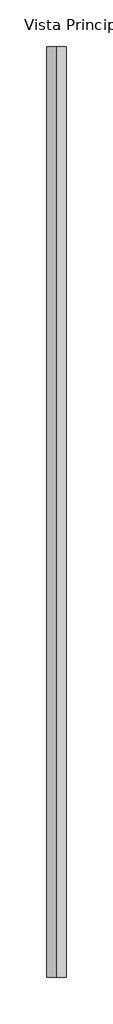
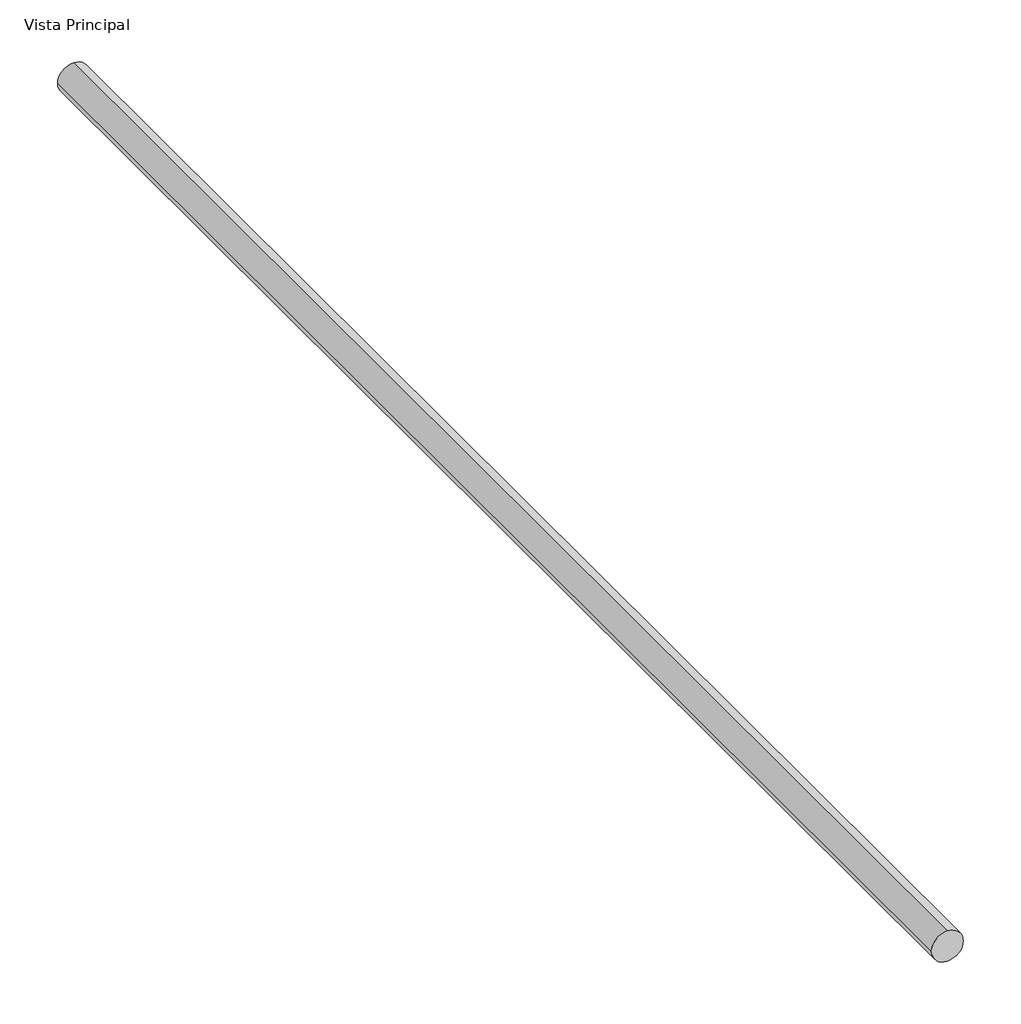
# One storey, incomplete: 1 pipe segment.
"""IFC4 building model written with IfcOpenShell, lengths in millimetres."""

from ifc_helpers import new_model, si_unit, point, frame, frame_2d, origin, place, context, project, spatial, circle_curve, trimmed, segment, composite_curve, outline, extrude, element, save

model = new_model("IFC4")

# Units and contexts
model_context = context("Model", 3, world=origin())
ifc_project = project(units=[si_unit("LENGTHUNIT", "METRE", prefix="MILLI")], contexts=[model_context])

# Site, building, storey
site = spatial("IfcSite", under=ifc_project)
building = spatial("IfcBuilding", under=site)
storey = spatial("IfcBuildingStorey", under=building, Name="Vista Principal", Elevation=0.0)

# Pipe segment
placement = place(None, origin())
element("IfcPipeSegment", 1, ObjectType="Amanco Wavin Ramal Predial-DE 20 a 32 mm", at=placement, inside=storey, context=model_context, shape_type="SweptSolid", body=[
    extrude(outline(composite_curve([segment(trimmed(circle_curve(frame_2d((0.0, 205.9952212)), 16.0), [point((0.0, 189.9952212))], [point((-16.0, 205.9952212))], False, "CARTESIAN"), True, "CONTINUOUS"), segment(trimmed(circle_curve(frame_2d((0.0, 205.9952212)), 16.0), [point((-16.0, 205.9952212))], [point((0.0, 221.9952212))], False, "CARTESIAN"), True, "CONTINUOUS"), segment(trimmed(circle_curve(frame_2d((0.0, 205.9952212)), 16.0), [point((0.0, 221.9952212))], [point((16.0, 205.9952212))], False, "CARTESIAN"), True, "CONTINUOUS"), segment(trimmed(circle_curve(frame_2d((0.0, 205.9952212)), 16.0), [point((16.0, 205.9952212))], [point((0.0, 189.9952212))], False, "CARTESIAN"), True, "CONTINUOUS")], self_intersect=False)), frame((0.0, -824.2604434, 0.0), z_axis=(0.0, 1.0, 0.0), x_axis=(0.0, 0.0, 1.0)), (0.0, 0.0, 1.0), 1517.3519555),
])

save(model, "model.ifc")
